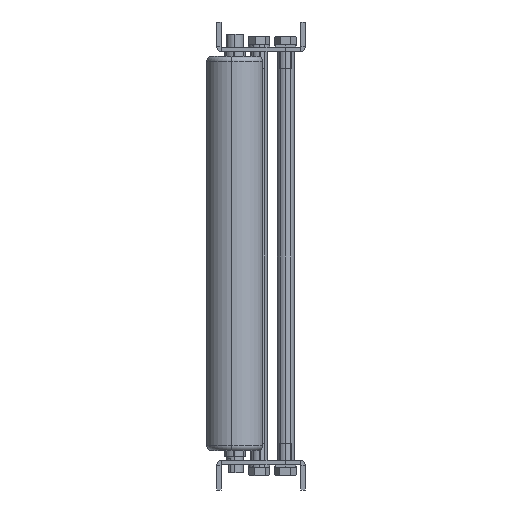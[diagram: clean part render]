
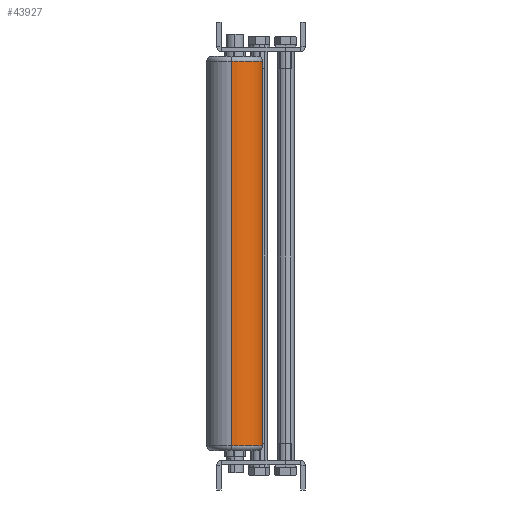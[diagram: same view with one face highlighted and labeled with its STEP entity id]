
A CAD part, left-side view. The second image highlights one B-rep face of the part: STEP entity #43927.
In plain terms, the highlighted cylindrical face has radius 28.6 mm (diameter 57.2 mm), a partial arc.
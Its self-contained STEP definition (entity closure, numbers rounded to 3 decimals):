
#1886 = LINE ( 'NONE', #33036, #29633 ) ;
#3273 = DIRECTION ( 'NONE',  ( 0., 0., 1. ) ) ;
#4024 = CARTESIAN_POINT ( 'NONE',  ( -1495.346, 93.376, -25. ) ) ;
#4837 = VERTEX_POINT ( 'NONE', #29125 ) ;
#5442 = CARTESIAN_POINT ( 'NONE',  ( -1495.346, 93.376, -415. ) ) ;
#8211 = EDGE_CURVE ( 'NONE', #41521, #37849, #1886, .T. ) ;
#9918 = CARTESIAN_POINT ( 'NONE',  ( -1523.776, 96.489, -415. ) ) ;
#12839 = LINE ( 'NONE', #34024, #33761 ) ;
#13637 = EDGE_CURVE ( 'NONE', #37849, #4837, #24253, .T. ) ;
#13880 = CIRCLE ( 'NONE', #35219, 28.6 ) ;
#15498 = ORIENTED_EDGE ( 'NONE', *, *, #8211, .T. ) ;
#16848 = DIRECTION ( 'NONE',  ( -0.994, 0.109, 0. ) ) ;
#20810 = CARTESIAN_POINT ( 'NONE',  ( -1552.206, 99.602, -415. ) ) ;
#22552 = EDGE_LOOP ( 'NONE', ( #40342, #37441, #15498, #39165 ) ) ;
#24253 = CIRCLE ( 'NONE', #35641, 28.6 ) ;
#25661 = DIRECTION ( 'NONE',  ( 0., 0., 1. ) ) ;
#27451 = CARTESIAN_POINT ( 'NONE',  ( -1523.776, 96.489, -25. ) ) ;
#28352 = VERTEX_POINT ( 'NONE', #20810 ) ;
#29125 = CARTESIAN_POINT ( 'NONE',  ( -1552.206, 99.602, -25. ) ) ;
#29514 = EDGE_CURVE ( 'NONE', #28352, #4837, #12839, .T. ) ;
#29633 = VECTOR ( 'NONE', #25661, 1000. ) ;
#29926 = FACE_OUTER_BOUND ( 'NONE', #22552, .T. ) ;
#30003 = EDGE_CURVE ( 'NONE', #28352, #41521, #13880, .T. ) ;
#30366 = CYLINDRICAL_SURFACE ( 'NONE', #40431, 28.6 ) ;
#30582 = CARTESIAN_POINT ( 'NONE',  ( -1523.776, 96.489, -420. ) ) ;
#30683 = DIRECTION ( 'NONE',  ( 0., 0., 1. ) ) ;
#33036 = CARTESIAN_POINT ( 'NONE',  ( -1495.346, 93.376, -420. ) ) ;
#33761 = VECTOR ( 'NONE', #30683, 1000. ) ;
#34024 = CARTESIAN_POINT ( 'NONE',  ( -1552.206, 99.602, -420. ) ) ;
#35219 = AXIS2_PLACEMENT_3D ( 'NONE', #9918, #3273, #16848 ) ;
#35641 = AXIS2_PLACEMENT_3D ( 'NONE', #27451, #41678, #37490 ) ;
#37441 = ORIENTED_EDGE ( 'NONE', *, *, #30003, .T. ) ;
#37490 = DIRECTION ( 'NONE',  ( -0.994, 0.109, 0. ) ) ;
#37849 = VERTEX_POINT ( 'NONE', #4024 ) ;
#39165 = ORIENTED_EDGE ( 'NONE', *, *, #13637, .T. ) ;
#39715 = DIRECTION ( 'NONE',  ( 0.994, -0.109, 0. ) ) ;
#40342 = ORIENTED_EDGE ( 'NONE', *, *, #29514, .F. ) ;
#40431 = AXIS2_PLACEMENT_3D ( 'NONE', #30582, #40586, #39715 ) ;
#40586 = DIRECTION ( 'NONE',  ( 0., 0., 1. ) ) ;
#41521 = VERTEX_POINT ( 'NONE', #5442 ) ;
#41678 = DIRECTION ( 'NONE',  ( 0., 0., -1. ) ) ;
#43927 = ADVANCED_FACE ( 'NONE', ( #29926 ), #30366, .T. ) ;
